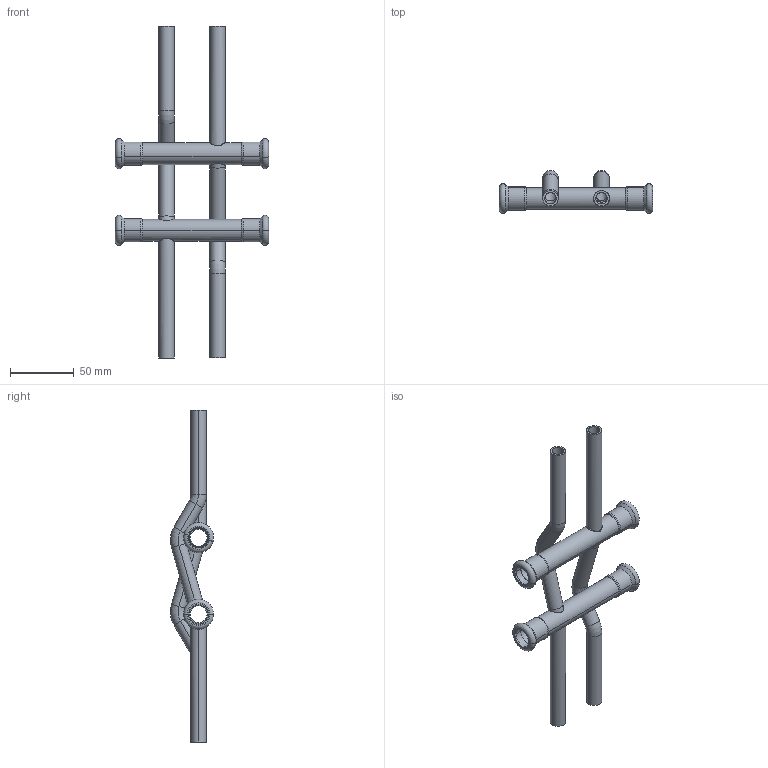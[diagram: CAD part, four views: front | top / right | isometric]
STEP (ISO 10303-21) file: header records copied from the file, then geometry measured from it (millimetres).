
FILE_DESCRIPTION(('CoCreate Modeling STEP Export'),'2;1');
FILE_NAME('C1436 15x12.stp','2015-08-11T14:06:29',(''),(''),'CoCreate Modeling STEP processor for AP214 (Solid Model)','CoCreate Modeling 17.00A 17-Jun-2010 (C) Parametric Technology GmbH','');
FILE_SCHEMA(('AUTOMOTIVE_DESIGN { 1 0 10303 214 1 1 1 1 }'));
Length unit declared in the file: millimetre
Products named in the file (13): 620856.5.1.1.8; 620856.5.1.1.7; 620856.5.1.1.6; 620856.5.1.1.5; 620856.5.1.1.4; 620856.5.1.1.3; 620856.5.1.1.2; 620856.5.1.1.1; 620866.4.1.1; 620866.4.1; 620856.5.1.1; 620856.5.1; C1436-15x12
Assembly tree (12 placements, depth 2):
  C1436-15x12
    620856.5.1
    620856.5.1.1
    620866.4.1
    620866.4.1.1
    620856.5.1.1.1
    620856.5.1.1.2
    620856.5.1.1.3
    620856.5.1.1.4
    620856.5.1.1.5
    620856.5.1.1.6
    620856.5.1.1.7
    620856.5.1.1.8
Bounding box: 120 x 33.75 x 260 mm (x, y, z)
Volume: 45814.9 mm3; surface area: 63021.8 mm2
Topology: 12 solids, 12 shells, 246 faces, 513 edges, 299 vertices
Faces by surface type: cylinder 96, torus 64, cone 48, plane 32, bspline 6
Entity records: 13049 total; most frequent: CARTESIAN_POINT 8151, ORIENTED_EDGE 1026, DIRECTION 852, EDGE_CURVE 513, AXIS2_PLACEMENT_3D 354, VERTEX_POINT 299, EDGE_LOOP 286, FACE_OUTER_BOUND 246
